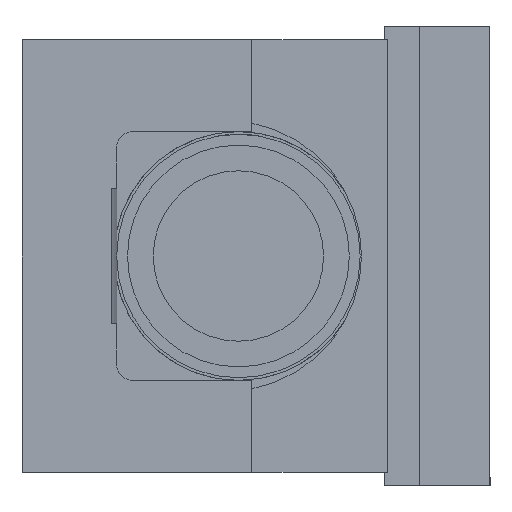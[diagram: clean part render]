
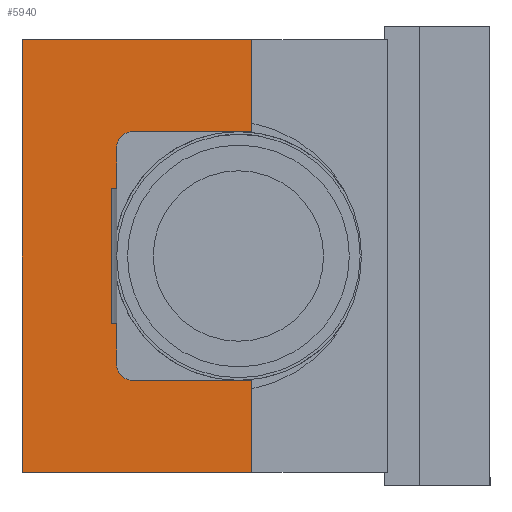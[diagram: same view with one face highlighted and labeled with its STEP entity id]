
A CAD part, left-side view. The second image highlights one B-rep face of the part: STEP entity #5940.
In plain terms, the highlighted planar face has unit normal (-1, 0, 0).
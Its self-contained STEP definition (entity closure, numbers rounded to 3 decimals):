
#99 = EDGE_CURVE ( 'NONE', #1525, #2836, #17673, .T. ) ;
#116 = ORIENTED_EDGE ( 'NONE', *, *, #18690, .F. ) ;
#208 = DIRECTION ( 'NONE',  ( 0., 0., 1. ) ) ;
#382 = EDGE_CURVE ( 'NONE', #24115, #2836, #26033, .T. ) ;
#1020 = EDGE_LOOP ( 'NONE', ( #1434, #9217, #3625, #9165, #10097, #3321, #116, #4809, #6357, #8072, #24025, #8505, #15641, #2717 ) ) ;
#1335 = CARTESIAN_POINT ( 'NONE',  ( -19.5, 7.5, -25. ) ) ;
#1434 = ORIENTED_EDGE ( 'NONE', *, *, #25174, .T. ) ;
#1481 = CARTESIAN_POINT ( 'NONE',  ( -19.5, -42.5, 80. ) ) ;
#1525 = VERTEX_POINT ( 'NONE', #3763 ) ;
#1662 = EDGE_CURVE ( 'NONE', #14970, #15365, #14004, .T. ) ;
#2174 = CARTESIAN_POINT ( 'NONE',  ( -19.5, 0., 0. ) ) ;
#2405 = DIRECTION ( 'NONE',  ( 1., 0., 0. ) ) ;
#2717 = ORIENTED_EDGE ( 'NONE', *, *, #11010, .T. ) ;
#2836 = VERTEX_POINT ( 'NONE', #20270 ) ;
#3164 = CARTESIAN_POINT ( 'NONE',  ( -19.5, -42.5, 80. ) ) ;
#3242 = VERTEX_POINT ( 'NONE', #11921 ) ;
#3296 = VERTEX_POINT ( 'NONE', #10558 ) ;
#3321 = ORIENTED_EDGE ( 'NONE', *, *, #1662, .T. ) ;
#3390 = VECTOR ( 'NONE', #21969, 1000. ) ;
#3625 = ORIENTED_EDGE ( 'NONE', *, *, #382, .F. ) ;
#3763 = CARTESIAN_POINT ( 'NONE',  ( -19.5, 9.42, -25. ) ) ;
#4484 = EDGE_CURVE ( 'NONE', #10463, #23503, #22246, .T. ) ;
#4560 = AXIS2_PLACEMENT_3D ( 'NONE', #8394, #2405, #208 ) ;
#4588 = VECTOR ( 'NONE', #13405, 1000. ) ;
#4809 = ORIENTED_EDGE ( 'NONE', *, *, #8645, .F. ) ;
#4881 = CARTESIAN_POINT ( 'NONE',  ( -19.5, 42.5, 80. ) ) ;
#5027 = CARTESIAN_POINT ( 'NONE',  ( -19.5, 7.5, 25. ) ) ;
#5159 = VERTEX_POINT ( 'NONE', #14746 ) ;
#5457 = DIRECTION ( 'NONE',  ( 1., 0., 0. ) ) ;
#5940 = ADVANCED_FACE ( 'NONE', ( #14346 ), #10642, .T. ) ;
#6331 = VECTOR ( 'NONE', #15648, 1000. ) ;
#6357 = ORIENTED_EDGE ( 'NONE', *, *, #21257, .F. ) ;
#6425 = LINE ( 'NONE', #20728, #17895 ) ;
#6577 = VERTEX_POINT ( 'NONE', #6890 ) ;
#6890 = CARTESIAN_POINT ( 'NONE',  ( -19.5, 42.5, -80. ) ) ;
#7121 = DIRECTION ( 'NONE',  ( 0., -1., 0. ) ) ;
#7256 = LINE ( 'NONE', #3164, #22338 ) ;
#7601 = DIRECTION ( 'NONE',  ( 0., 0., -1. ) ) ;
#8072 = ORIENTED_EDGE ( 'NONE', *, *, #25789, .F. ) ;
#8220 = LINE ( 'NONE', #16626, #14506 ) ;
#8394 = CARTESIAN_POINT ( 'NONE',  ( -19.5, 1.5, 40. ) ) ;
#8505 = ORIENTED_EDGE ( 'NONE', *, *, #11534, .T. ) ;
#8645 = EDGE_CURVE ( 'NONE', #24468, #3296, #7256, .T. ) ;
#9165 = ORIENTED_EDGE ( 'NONE', *, *, #10779, .T. ) ;
#9217 = ORIENTED_EDGE ( 'NONE', *, *, #99, .T. ) ;
#9265 = LINE ( 'NONE', #17921, #21482 ) ;
#9308 = VECTOR ( 'NONE', #7601, 1000. ) ;
#9442 = VECTOR ( 'NONE', #20306, 1000. ) ;
#10097 = ORIENTED_EDGE ( 'NONE', *, *, #25269, .T. ) ;
#10463 = VERTEX_POINT ( 'NONE', #19660 ) ;
#10558 = CARTESIAN_POINT ( 'NONE',  ( -19.5, -42.5, 80. ) ) ;
#10642 = PLANE ( 'NONE',  #15286 ) ;
#10779 = EDGE_CURVE ( 'NONE', #24115, #14565, #6425, .T. ) ;
#11010 = EDGE_CURVE ( 'NONE', #23503, #21078, #19182, .T. ) ;
#11342 = VECTOR ( 'NONE', #13134, 1000. ) ;
#11534 = EDGE_CURVE ( 'NONE', #3242, #10463, #9265, .T. ) ;
#11921 = CARTESIAN_POINT ( 'NONE',  ( -19.5, -42.5, -46. ) ) ;
#12052 = VECTOR ( 'NONE', #13111, 1000. ) ;
#12830 = CARTESIAN_POINT ( 'NONE',  ( -19.5, -42.5, 80. ) ) ;
#12876 = CIRCLE ( 'NONE', #4560, 6. ) ;
#13111 = DIRECTION ( 'NONE',  ( 0., 0., -1. ) ) ;
#13134 = DIRECTION ( 'NONE',  ( 0., 0., 1. ) ) ;
#13156 = CARTESIAN_POINT ( 'NONE',  ( -19.5, 1.5, 46. ) ) ;
#13165 = CARTESIAN_POINT ( 'NONE',  ( -19.5, 9.42, -25. ) ) ;
#13405 = DIRECTION ( 'NONE',  ( 0., 1., 0. ) ) ;
#14004 = LINE ( 'NONE', #24046, #9442 ) ;
#14346 = FACE_OUTER_BOUND ( 'NONE', #1020, .T. ) ;
#14506 = VECTOR ( 'NONE', #24996, 1000. ) ;
#14565 = VERTEX_POINT ( 'NONE', #21303 ) ;
#14746 = CARTESIAN_POINT ( 'NONE',  ( -19.5, -42.5, -80. ) ) ;
#14772 = AXIS2_PLACEMENT_3D ( 'NONE', #24268, #5457, #15893 ) ;
#14970 = VERTEX_POINT ( 'NONE', #13156 ) ;
#15286 = AXIS2_PLACEMENT_3D ( 'NONE', #2174, #25052, #24923 ) ;
#15365 = VERTEX_POINT ( 'NONE', #18753 ) ;
#15641 = ORIENTED_EDGE ( 'NONE', *, *, #4484, .T. ) ;
#15648 = DIRECTION ( 'NONE',  ( 0., 0., 1. ) ) ;
#15893 = DIRECTION ( 'NONE',  ( 0., 0., 1. ) ) ;
#16626 = CARTESIAN_POINT ( 'NONE',  ( -19.5, -42.5, -80. ) ) ;
#17639 = DIRECTION ( 'NONE',  ( 0., 1., 0. ) ) ;
#17673 = LINE ( 'NONE', #13165, #3390 ) ;
#17699 = LINE ( 'NONE', #26086, #6331 ) ;
#17895 = VECTOR ( 'NONE', #23349, 1000. ) ;
#17921 = CARTESIAN_POINT ( 'NONE',  ( -19.5, 7.5, -46. ) ) ;
#18039 = LINE ( 'NONE', #1335, #22518 ) ;
#18690 = EDGE_CURVE ( 'NONE', #3296, #15365, #19158, .T. ) ;
#18753 = CARTESIAN_POINT ( 'NONE',  ( -19.5, -42.5, 46. ) ) ;
#19158 = LINE ( 'NONE', #12830, #12052 ) ;
#19182 = LINE ( 'NONE', #23438, #11342 ) ;
#19660 = CARTESIAN_POINT ( 'NONE',  ( -19.5, 1.5, -46. ) ) ;
#19862 = CARTESIAN_POINT ( 'NONE',  ( -19.5, 7.5, 25. ) ) ;
#20258 = LINE ( 'NONE', #1481, #9308 ) ;
#20270 = CARTESIAN_POINT ( 'NONE',  ( -19.5, 9.42, 25. ) ) ;
#20306 = DIRECTION ( 'NONE',  ( 0., -1., 0. ) ) ;
#20728 = CARTESIAN_POINT ( 'NONE',  ( -19.5, 7.5, 46. ) ) ;
#21044 = CARTESIAN_POINT ( 'NONE',  ( -19.5, 7.5, -25. ) ) ;
#21078 = VERTEX_POINT ( 'NONE', #21044 ) ;
#21257 = EDGE_CURVE ( 'NONE', #6577, #24468, #17699, .T. ) ;
#21303 = CARTESIAN_POINT ( 'NONE',  ( -19.5, 7.5, 40. ) ) ;
#21482 = VECTOR ( 'NONE', #17639, 1000. ) ;
#21969 = DIRECTION ( 'NONE',  ( 0., 0., 1. ) ) ;
#22246 = CIRCLE ( 'NONE', #14772, 6. ) ;
#22338 = VECTOR ( 'NONE', #7121, 1000. ) ;
#22518 = VECTOR ( 'NONE', #22566, 1000. ) ;
#22566 = DIRECTION ( 'NONE',  ( 0., 1., 0. ) ) ;
#23349 = DIRECTION ( 'NONE',  ( 0., 0., 1. ) ) ;
#23438 = CARTESIAN_POINT ( 'NONE',  ( -19.5, 7.5, 46. ) ) ;
#23503 = VERTEX_POINT ( 'NONE', #25888 ) ;
#24025 = ORIENTED_EDGE ( 'NONE', *, *, #26756, .F. ) ;
#24046 = CARTESIAN_POINT ( 'NONE',  ( -19.5, 7.5, 46. ) ) ;
#24115 = VERTEX_POINT ( 'NONE', #19862 ) ;
#24268 = CARTESIAN_POINT ( 'NONE',  ( -19.5, 1.5, -40. ) ) ;
#24468 = VERTEX_POINT ( 'NONE', #4881 ) ;
#24923 = DIRECTION ( 'NONE',  ( 0., 0., 1. ) ) ;
#24996 = DIRECTION ( 'NONE',  ( 0., 1., 0. ) ) ;
#25052 = DIRECTION ( 'NONE',  ( -1., 0., 0. ) ) ;
#25174 = EDGE_CURVE ( 'NONE', #21078, #1525, #18039, .T. ) ;
#25269 = EDGE_CURVE ( 'NONE', #14565, #14970, #12876, .T. ) ;
#25789 = EDGE_CURVE ( 'NONE', #5159, #6577, #8220, .T. ) ;
#25888 = CARTESIAN_POINT ( 'NONE',  ( -19.5, 7.5, -40. ) ) ;
#26033 = LINE ( 'NONE', #5027, #4588 ) ;
#26086 = CARTESIAN_POINT ( 'NONE',  ( -19.5, 42.5, 80. ) ) ;
#26756 = EDGE_CURVE ( 'NONE', #3242, #5159, #20258, .T. ) ;
